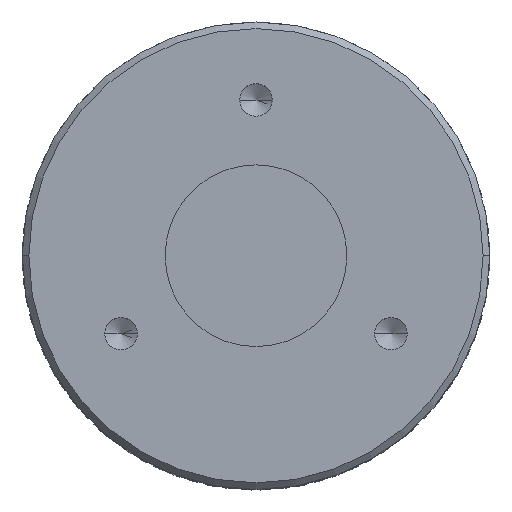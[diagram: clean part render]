
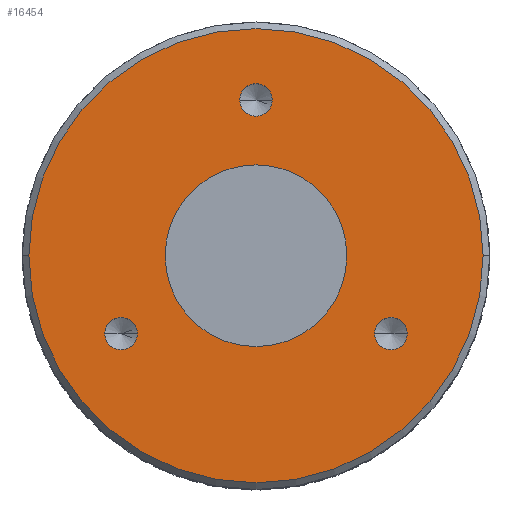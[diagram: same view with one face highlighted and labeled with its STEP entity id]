
A CAD part, top view. The second image highlights one B-rep face of the part: STEP entity #16454.
In plain terms, the highlighted planar face has unit normal (0, 0, 1).
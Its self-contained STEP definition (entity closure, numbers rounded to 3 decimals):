
#66 = DIRECTION ( 'NONE',  ( 1., 0., 0. ) ) ;
#189 = EDGE_LOOP ( 'NONE', ( #2751, #5553 ) ) ;
#613 = CARTESIAN_POINT ( 'NONE',  ( 0., 0., 0. ) ) ;
#997 = DIRECTION ( 'NONE',  ( 1., 0., 0. ) ) ;
#1058 = VERTEX_POINT ( 'NONE', #19306 ) ;
#1181 = EDGE_CURVE ( 'NONE', #2838, #17397, #14795, .T. ) ;
#1630 = CARTESIAN_POINT ( 'NONE',  ( 0., 12., 0. ) ) ;
#1691 = EDGE_CURVE ( 'NONE', #5610, #1799, #2635, .T. ) ;
#1730 = CIRCLE ( 'NONE', #3721, 1.25 ) ;
#1782 = AXIS2_PLACEMENT_3D ( 'NONE', #6464, #17124, #7993 ) ;
#1799 = VERTEX_POINT ( 'NONE', #19077 ) ;
#2100 = AXIS2_PLACEMENT_3D ( 'NONE', #613, #11202, #2118 ) ;
#2118 = DIRECTION ( 'NONE',  ( 1., 0., 0. ) ) ;
#2635 = CIRCLE ( 'NONE', #2100, 7. ) ;
#2651 = CARTESIAN_POINT ( 'NONE',  ( 0., 7., 0. ) ) ;
#2751 = ORIENTED_EDGE ( 'NONE', *, *, #15464, .F. ) ;
#2838 = VERTEX_POINT ( 'NONE', #13108 ) ;
#3135 = DIRECTION ( 'NONE',  ( 1., 0., 0. ) ) ;
#3136 = CARTESIAN_POINT ( 'NONE',  ( 9.142, -6., 0. ) ) ;
#3710 = VERTEX_POINT ( 'NONE', #3136 ) ;
#3721 = AXIS2_PLACEMENT_3D ( 'NONE', #19200, #10061, #997 ) ;
#3979 = AXIS2_PLACEMENT_3D ( 'NONE', #1630, #12248, #3135 ) ;
#4560 = VERTEX_POINT ( 'NONE', #15326 ) ;
#4955 = DIRECTION ( 'NONE',  ( 0., 0., 1. ) ) ;
#5086 = CARTESIAN_POINT ( 'NONE',  ( 1.25, 12., 0. ) ) ;
#5553 = ORIENTED_EDGE ( 'NONE', *, *, #14158, .F. ) ;
#5610 = VERTEX_POINT ( 'NONE', #10808 ) ;
#5615 = AXIS2_PLACEMENT_3D ( 'NONE', #14060, #4955, #15620 ) ;
#5734 = ORIENTED_EDGE ( 'NONE', *, *, #1691, .F. ) ;
#6046 = CIRCLE ( 'NONE', #1782, 1.25 ) ;
#6200 = ORIENTED_EDGE ( 'NONE', *, *, #1181, .T. ) ;
#6384 = AXIS2_PLACEMENT_3D ( 'NONE', #18274, #9143, #66 ) ;
#6464 = CARTESIAN_POINT ( 'NONE',  ( -10.392, -6., 0. ) ) ;
#6507 = FACE_BOUND ( 'NONE', #8691, .T. ) ;
#6719 = AXIS2_PLACEMENT_3D ( 'NONE', #8754, #19412, #10271 ) ;
#6756 = EDGE_CURVE ( 'NONE', #10424, #15044, #9836, .T. ) ;
#7369 = ORIENTED_EDGE ( 'NONE', *, *, #9805, .F. ) ;
#7449 = CIRCLE ( 'NONE', #5615, 1.25 ) ;
#7511 = AXIS2_PLACEMENT_3D ( 'NONE', #17908, #8775, #19440 ) ;
#7682 = DIRECTION ( 'NONE',  ( 0., 0., 1. ) ) ;
#7993 = DIRECTION ( 'NONE',  ( 1., 0., 0. ) ) ;
#8418 = EDGE_CURVE ( 'NONE', #17862, #3710, #1730, .T. ) ;
#8642 = AXIS2_PLACEMENT_3D ( 'NONE', #2651, #8764, #19426 ) ;
#8691 = EDGE_LOOP ( 'NONE', ( #14247, #5734 ) ) ;
#8754 = CARTESIAN_POINT ( 'NONE',  ( -10.392, -6., 0. ) ) ;
#8764 = DIRECTION ( 'NONE',  ( 0., 0., -1. ) ) ;
#8775 = DIRECTION ( 'NONE',  ( 0., 0., 1. ) ) ;
#8984 = CARTESIAN_POINT ( 'NONE',  ( 0., 0., 0. ) ) ;
#9143 = DIRECTION ( 'NONE',  ( 0., 0., 1. ) ) ;
#9221 = EDGE_LOOP ( 'NONE', ( #6200, #13233 ) ) ;
#9733 = ORIENTED_EDGE ( 'NONE', *, *, #17870, .F. ) ;
#9805 = EDGE_CURVE ( 'NONE', #15044, #10424, #19726, .T. ) ;
#9836 = CIRCLE ( 'NONE', #6384, 1.25 ) ;
#10061 = DIRECTION ( 'NONE',  ( 0., 0., 1. ) ) ;
#10271 = DIRECTION ( 'NONE',  ( 1., 0., 0. ) ) ;
#10424 = VERTEX_POINT ( 'NONE', #12347 ) ;
#10500 = DIRECTION ( 'NONE',  ( 1., 0., 0. ) ) ;
#10538 = FACE_BOUND ( 'NONE', #11921, .T. ) ;
#10808 = CARTESIAN_POINT ( 'NONE',  ( -7., 0., 0. ) ) ;
#11202 = DIRECTION ( 'NONE',  ( 0., 0., 1. ) ) ;
#11921 = EDGE_LOOP ( 'NONE', ( #13371, #9733 ) ) ;
#12248 = DIRECTION ( 'NONE',  ( 0., 0., 1. ) ) ;
#12347 = CARTESIAN_POINT ( 'NONE',  ( -1.25, 12., 0. ) ) ;
#12825 = AXIS2_PLACEMENT_3D ( 'NONE', #16820, #7682, #18332 ) ;
#13108 = CARTESIAN_POINT ( 'NONE',  ( -17.492, 0., 0. ) ) ;
#13233 = ORIENTED_EDGE ( 'NONE', *, *, #15997, .T. ) ;
#13371 = ORIENTED_EDGE ( 'NONE', *, *, #8418, .F. ) ;
#13429 = AXIS2_PLACEMENT_3D ( 'NONE', #8984, #19649, #10500 ) ;
#13465 = CIRCLE ( 'NONE', #6719, 1.25 ) ;
#14060 = CARTESIAN_POINT ( 'NONE',  ( 10.392, -6., 0. ) ) ;
#14108 = FACE_OUTER_BOUND ( 'NONE', #9221, .T. ) ;
#14152 = CARTESIAN_POINT ( 'NONE',  ( 17.492, 0., 0. ) ) ;
#14158 = EDGE_CURVE ( 'NONE', #4560, #1058, #13465, .T. ) ;
#14247 = ORIENTED_EDGE ( 'NONE', *, *, #14321, .F. ) ;
#14321 = EDGE_CURVE ( 'NONE', #1799, #5610, #17523, .T. ) ;
#14604 = FACE_BOUND ( 'NONE', #189, .T. ) ;
#14795 = CIRCLE ( 'NONE', #13429, 17.492 ) ;
#15044 = VERTEX_POINT ( 'NONE', #5086 ) ;
#15326 = CARTESIAN_POINT ( 'NONE',  ( -11.642, -6., 0. ) ) ;
#15464 = EDGE_CURVE ( 'NONE', #1058, #4560, #6046, .T. ) ;
#15555 = CIRCLE ( 'NONE', #7511, 17.492 ) ;
#15620 = DIRECTION ( 'NONE',  ( 1., 0., 0. ) ) ;
#15997 = EDGE_CURVE ( 'NONE', #17397, #2838, #15555, .T. ) ;
#16378 = PLANE ( 'NONE',  #8642 ) ;
#16454 = ADVANCED_FACE ( 'NONE', ( #18196, #14604, #10538, #6507, #14108 ), #16378, .F. ) ;
#16820 = CARTESIAN_POINT ( 'NONE',  ( 0., 0., 0. ) ) ;
#16936 = EDGE_LOOP ( 'NONE', ( #7369, #17930 ) ) ;
#17082 = CARTESIAN_POINT ( 'NONE',  ( 11.642, -6., 0. ) ) ;
#17124 = DIRECTION ( 'NONE',  ( 0., 0., 1. ) ) ;
#17397 = VERTEX_POINT ( 'NONE', #14152 ) ;
#17523 = CIRCLE ( 'NONE', #12825, 7. ) ;
#17862 = VERTEX_POINT ( 'NONE', #17082 ) ;
#17870 = EDGE_CURVE ( 'NONE', #3710, #17862, #7449, .T. ) ;
#17908 = CARTESIAN_POINT ( 'NONE',  ( 0., 0., 0. ) ) ;
#17930 = ORIENTED_EDGE ( 'NONE', *, *, #6756, .F. ) ;
#18196 = FACE_BOUND ( 'NONE', #16936, .T. ) ;
#18274 = CARTESIAN_POINT ( 'NONE',  ( 0., 12., 0. ) ) ;
#18332 = DIRECTION ( 'NONE',  ( 1., 0., 0. ) ) ;
#19077 = CARTESIAN_POINT ( 'NONE',  ( 7., 0., 0. ) ) ;
#19200 = CARTESIAN_POINT ( 'NONE',  ( 10.392, -6., 0. ) ) ;
#19306 = CARTESIAN_POINT ( 'NONE',  ( -9.142, -6., 0. ) ) ;
#19412 = DIRECTION ( 'NONE',  ( 0., 0., 1. ) ) ;
#19426 = DIRECTION ( 'NONE',  ( -1., 0., 0. ) ) ;
#19440 = DIRECTION ( 'NONE',  ( 1., 0., 0. ) ) ;
#19649 = DIRECTION ( 'NONE',  ( 0., 0., 1. ) ) ;
#19726 = CIRCLE ( 'NONE', #3979, 1.25 ) ;
